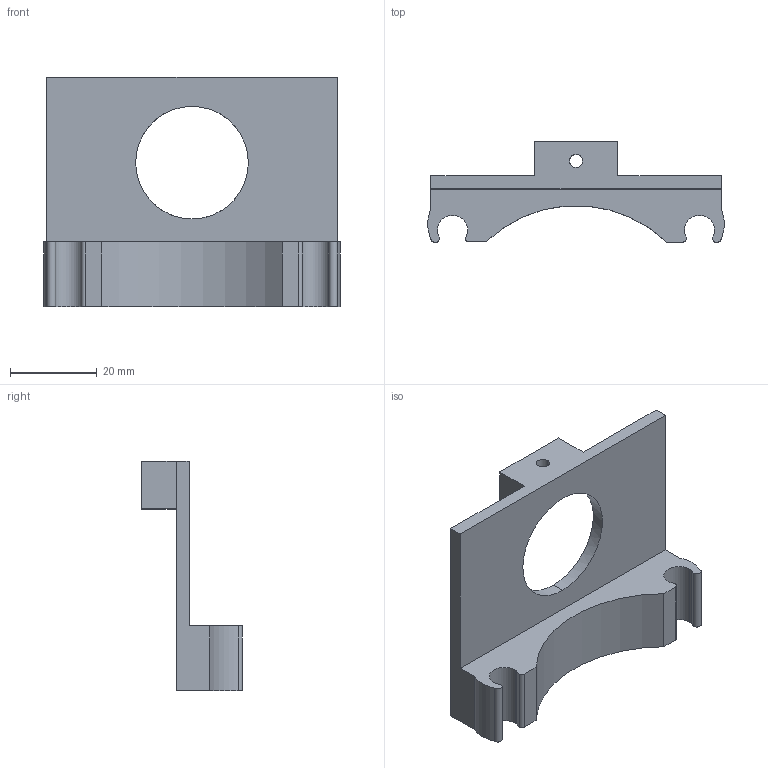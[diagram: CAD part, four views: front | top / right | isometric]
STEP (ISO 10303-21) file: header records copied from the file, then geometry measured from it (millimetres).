
FILE_DESCRIPTION (( 'STEP AP214' ), '1' );
FILE_NAME ('Äåðæàòåëü äàò÷èêà.STEP', '2025-05-04T13:26:52', ( 'yura' ), ( '' ), 'SwSTEP 2.0', 'SolidWorks 2020', '' );
FILE_SCHEMA (( 'AUTOMOTIVE_DESIGN' ));
Length unit declared in the file: millimetre
Products named in the file (1): Äåðæàòåëü äàò÷èêà
Bounding box: 68.47 x 23.3 x 53 mm (x, y, z)
Volume: 17860.3 mm3; surface area: 9296.3 mm2
Topology: 1 solids, 1 shells, 34 faces, 102 edges, 68 vertices
Faces by surface type: cylinder 18, plane 16
Entity records: 1252 total; most frequent: CARTESIAN_POINT 261, ORIENTED_EDGE 204, DIRECTION 204, EDGE_CURVE 102, AXIS2_PLACEMENT_3D 71, VERTEX_POINT 68, LINE 62, VECTOR 62
